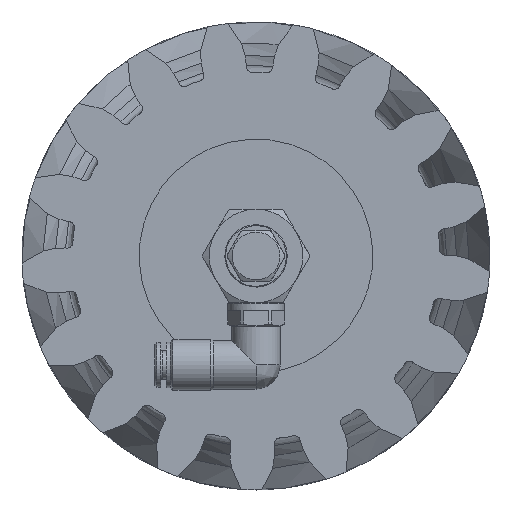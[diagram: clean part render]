
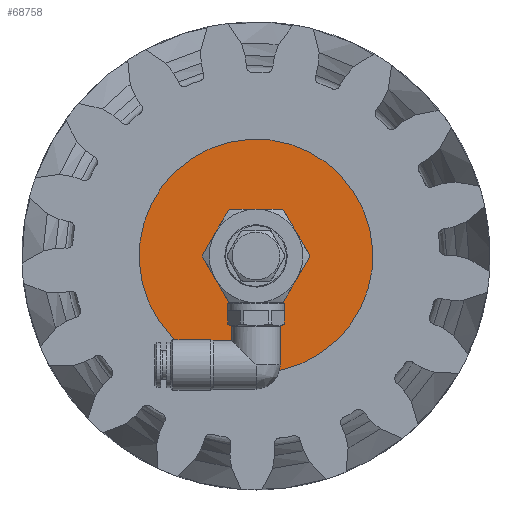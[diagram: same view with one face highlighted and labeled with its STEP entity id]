
A CAD part, front view. The second image highlights one B-rep face of the part: STEP entity #68758.
In plain terms, the highlighted planar face has unit normal (0, -1, 0) as drawn and (0, 0, 1) by its records, which use the part's own axes.
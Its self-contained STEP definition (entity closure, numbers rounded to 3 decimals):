
#161 = DIRECTION ( 'NONE',  ( 1., 0., 0. ) ) ;
#3243 = DIRECTION ( 'NONE',  ( 0., 0., -1. ) ) ;
#3350 = EDGE_CURVE ( 'NONE', #26912, #26912, #64909, .T. ) ;
#4695 = DIRECTION ( 'NONE',  ( 0., 0., 1. ) ) ;
#4760 = FACE_BOUND ( 'NONE', #31514, .T. ) ;
#10574 = AXIS2_PLACEMENT_3D ( 'NONE', #80565, #4695, #161 ) ;
#10630 = CIRCLE ( 'NONE', #10574, 30. ) ;
#20385 = VERTEX_POINT ( 'NONE', #58454 ) ;
#21763 = DIRECTION ( 'NONE',  ( -1., 0., 0. ) ) ;
#23050 = AXIS2_PLACEMENT_3D ( 'NONE', #65558, #3243, #21763 ) ;
#26912 = VERTEX_POINT ( 'NONE', #63366 ) ;
#29592 = AXIS2_PLACEMENT_3D ( 'NONE', #66506, #52995, #48045 ) ;
#30051 = EDGE_CURVE ( 'NONE', #20385, #20385, #10630, .T. ) ;
#31514 = EDGE_LOOP ( 'NONE', ( #73848 ) ) ;
#40172 = ORIENTED_EDGE ( 'NONE', *, *, #30051, .T. ) ;
#46197 = EDGE_LOOP ( 'NONE', ( #40172 ) ) ;
#48045 = DIRECTION ( 'NONE',  ( 1., 0., 0. ) ) ;
#52859 = FACE_OUTER_BOUND ( 'NONE', #46197, .T. ) ;
#52995 = DIRECTION ( 'NONE',  ( 0., 0., 1. ) ) ;
#58454 = CARTESIAN_POINT ( 'NONE',  ( 30., 0., 0. ) ) ;
#63366 = CARTESIAN_POINT ( 'NONE',  ( 5.286, 0., 0. ) ) ;
#64909 = CIRCLE ( 'NONE', #29592, 5.286 ) ;
#65558 = CARTESIAN_POINT ( 'NONE',  ( 0., 30., 0. ) ) ;
#66506 = CARTESIAN_POINT ( 'NONE',  ( 0., 0., 0. ) ) ;
#68758 = ADVANCED_FACE ( 'NONE', ( #4760, #52859 ), #74044, .F. ) ;
#73848 = ORIENTED_EDGE ( 'NONE', *, *, #3350, .F. ) ;
#74044 = PLANE ( 'NONE',  #23050 ) ;
#80565 = CARTESIAN_POINT ( 'NONE',  ( 0., 0., 0. ) ) ;
